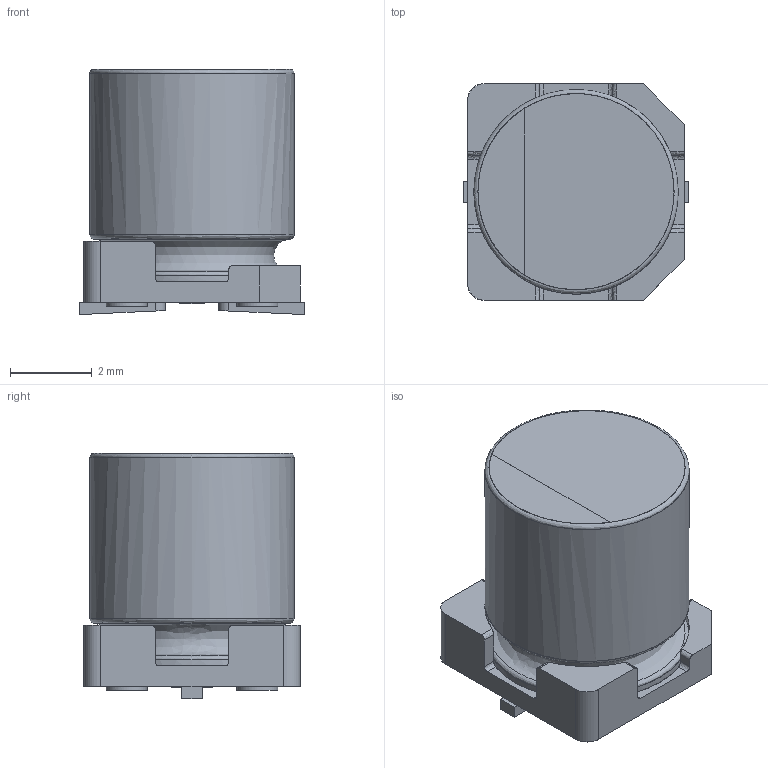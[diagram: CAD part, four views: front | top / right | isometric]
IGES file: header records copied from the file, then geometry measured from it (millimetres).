
Start section: JAMA-IS VERSION  1.0
Bounding box: 5.5 x 5.3 x 6 mm (x, y, z)
Surface area: 221.5 mm2 (no closed solid volume)
Topology: 0 solids, 0 shells, 81 faces, 944 edges, 926 vertices
Faces by surface type: bspline 81
